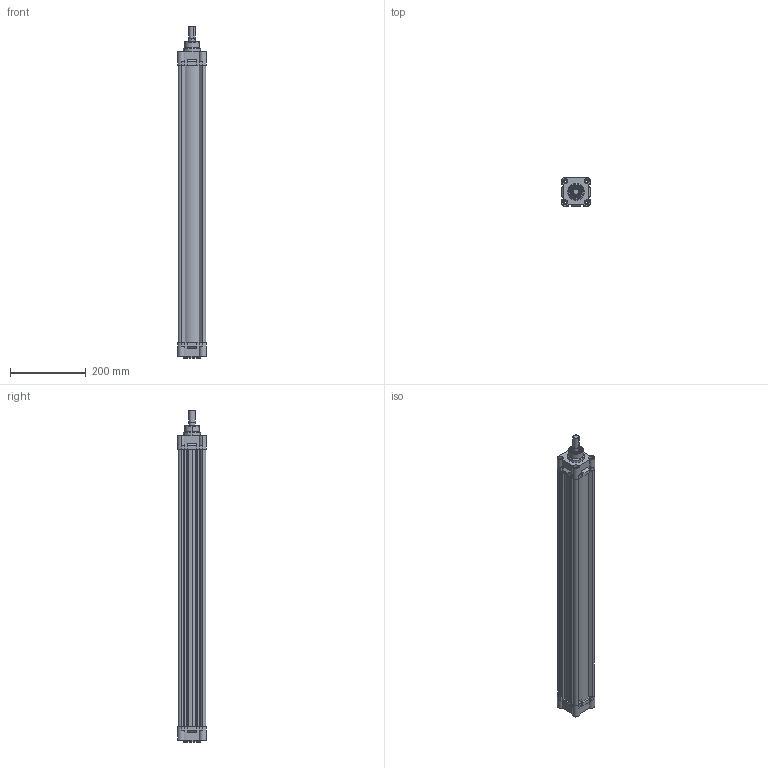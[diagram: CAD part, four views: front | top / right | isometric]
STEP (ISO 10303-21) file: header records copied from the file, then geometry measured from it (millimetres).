
FILE_DESCRIPTION (( 'STEP AP214' ), '1' );
FILE_NAME ('RIC_63_700_WEB.STEP', '2020-07-18T16:38:11', ( '' ), ( '' ), 'SwSTEP 2.0', 'SolidWorks 2018', '' );
FILE_SCHEMA (( 'AUTOMOTIVE_DESIGN' ));
Length unit declared in the file: millimetre
Products named in the file (7): 20_K_MIL_WEB; ric63onkapak; RIC_63_700_WEB; 63_BORU_WEB; ric63bogazkecesi; ric63arkakapak; ric63yastikkecesi
Assembly tree (7 placements, depth 2):
  RIC_63_700_WEB
    63_BORU_WEB
    ric63onkapak
    ric63arkakapak
    ric63bogazkecesi
    ric63yastikkecesi  x2
    20_K_MIL_WEB
Bounding box: 76 x 76 x 878 mm (x, y, z)
Volume: 1529408.3 mm3; surface area: 568252.1 mm2
Topology: 7 solids, 7 shells, 709 faces, 1751 edges, 1102 vertices
Faces by surface type: plane 280, cylinder 220, torus 134, cone 56, bspline 19
Entity records: 21075 total; most frequent: CARTESIAN_POINT 4906, DIRECTION 3090, ORIENTED_EDGE 2910, EDGE_CURVE 1455, AXIS2_PLACEMENT_3D 1135, VERTEX_POINT 925, LINE 820, VECTOR 820
